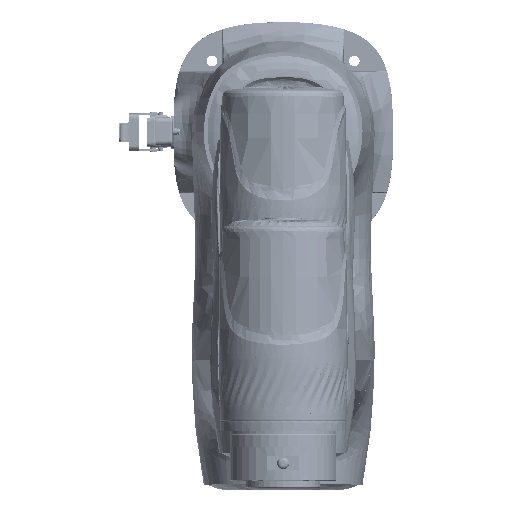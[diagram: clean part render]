
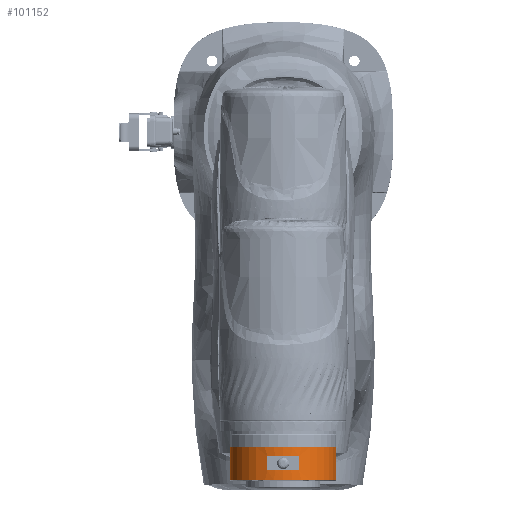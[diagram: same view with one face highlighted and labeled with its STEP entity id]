
A CAD part, top view. The second image highlights one B-rep face of the part: STEP entity #101152.
In plain terms, the highlighted cylindrical face has radius 45 mm (diameter 90 mm), a partial arc.
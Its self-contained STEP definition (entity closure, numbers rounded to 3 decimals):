
#99127=CARTESIAN_POINT('',(20.2,0.,0.));
#99128=DIRECTION('',(-1.,0.,0.));
#99129=DIRECTION('',(0.,0.966,-0.259));
#99130=AXIS2_PLACEMENT_3D('',#99127,#99128,#99129);
#99132=DIRECTION('',(-1.,0.,0.));
#99133=VECTOR('',#99132,27.6);
#99134=CARTESIAN_POINT('',(20.2,43.467,-11.647));
#99135=LINE('',#99134,#99133);
#99136=DIRECTION('',(1.,0.,0.));
#99137=VECTOR('',#99136,27.6);
#99138=CARTESIAN_POINT('',(-7.4,-43.467,11.647));
#99139=LINE('',#99138,#99137);
#99140=DIRECTION('',(-1.,0.,0.));
#99141=VECTOR('',#99140,12.);
#99142=CARTESIAN_POINT('',(12.,-23.944,-38.101));
#99143=LINE('',#99142,#99141);
#99144=DIRECTION('',(1.,0.,0.));
#99145=VECTOR('',#99144,12.);
#99146=CARTESIAN_POINT('',(0.,1.685,-44.968));
#99147=LINE('',#99146,#99145);
#99148=CARTESIAN_POINT('',(-7.4,0.,0.));
#99149=DIRECTION('',(1.,0.,0.));
#99150=DIRECTION('',(0.,-0.966,0.259));
#99151=AXIS2_PLACEMENT_3D('',#99148,#99149,#99150);
#99236=CARTESIAN_POINT('',(12.,0.,0.));
#99237=DIRECTION('',(1.,0.,0.));
#99238=DIRECTION('',(0.,-0.532,-0.847));
#99239=AXIS2_PLACEMENT_3D('',#99236,#99237,#99238);
#99245=CARTESIAN_POINT('',(0.,0.,0.));
#99246=DIRECTION('',(-1.,0.,0.));
#99247=DIRECTION('',(0.,0.037,-0.999));
#99248=AXIS2_PLACEMENT_3D('',#99245,#99246,#99247);
#100564=CARTESIAN_POINT('',(20.2,43.467,-11.647));
#100565=VERTEX_POINT('',#100564);
#100566=CARTESIAN_POINT('',(20.2,-43.467,11.647));
#100567=VERTEX_POINT('',#100566);
#100568=CARTESIAN_POINT('',(-7.4,43.467,-11.647));
#100569=VERTEX_POINT('',#100568);
#100570=CARTESIAN_POINT('',(-7.4,-43.467,11.647));
#100571=VERTEX_POINT('',#100570);
#100572=CARTESIAN_POINT('',(12.,-23.944,-38.101));
#100573=CARTESIAN_POINT('',(0.,-23.944,-38.101));
#100574=VERTEX_POINT('',#100572);
#100575=VERTEX_POINT('',#100573);
#100576=CARTESIAN_POINT('',(0.,1.685,-44.968));
#100577=VERTEX_POINT('',#100576);
#100578=CARTESIAN_POINT('',(12.,1.685,-44.968));
#100579=VERTEX_POINT('',#100578);
#101128=CARTESIAN_POINT('',(28.045,0.,0.));
#101129=DIRECTION('',(-1.,0.,0.));
#101130=DIRECTION('',(0.,0.966,-0.259));
#101131=AXIS2_PLACEMENT_3D('',#101128,#101129,#101130);
#101132=CYLINDRICAL_SURFACE('',#101131,45.);
#101134=ORIENTED_EDGE('',*,*,#101133,.T.);
#101136=ORIENTED_EDGE('',*,*,#101135,.F.);
#101138=ORIENTED_EDGE('',*,*,#101137,.T.);
#101139=ORIENTED_EDGE('',*,*,#101121,.F.);
#101140=EDGE_LOOP('',(#101134,#101136,#101138,#101139));
#101141=FACE_OUTER_BOUND('',#101140,.F.);
#101143=ORIENTED_EDGE('',*,*,#101142,.T.);
#101145=ORIENTED_EDGE('',*,*,#101144,.F.);
#101147=ORIENTED_EDGE('',*,*,#101146,.T.);
#101149=ORIENTED_EDGE('',*,*,#101148,.F.);
#101150=EDGE_LOOP('',(#101143,#101145,#101147,#101149));
#101151=FACE_BOUND('',#101150,.F.);
#101152=ADVANCED_FACE('',(#101141,#101151),#101132,.T.);
#99131=CIRCLE('',#99130,45.);
#99152=CIRCLE('',#99151,45.);
#99240=CIRCLE('',#99239,45.);
#99249=CIRCLE('',#99248,45.);
#101121=EDGE_CURVE('',#100565,#100567,#99131,.T.);
#101133=EDGE_CURVE('',#100565,#100569,#99135,.T.);
#101135=EDGE_CURVE('',#100571,#100569,#99152,.T.);
#101137=EDGE_CURVE('',#100571,#100567,#99139,.T.);
#101142=EDGE_CURVE('',#100574,#100575,#99143,.T.);
#101144=EDGE_CURVE('',#100577,#100575,#99249,.T.);
#101146=EDGE_CURVE('',#100577,#100579,#99147,.T.);
#101148=EDGE_CURVE('',#100574,#100579,#99240,.T.);
